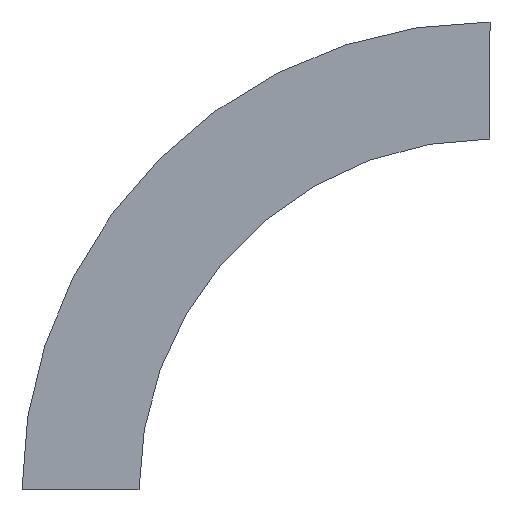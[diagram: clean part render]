
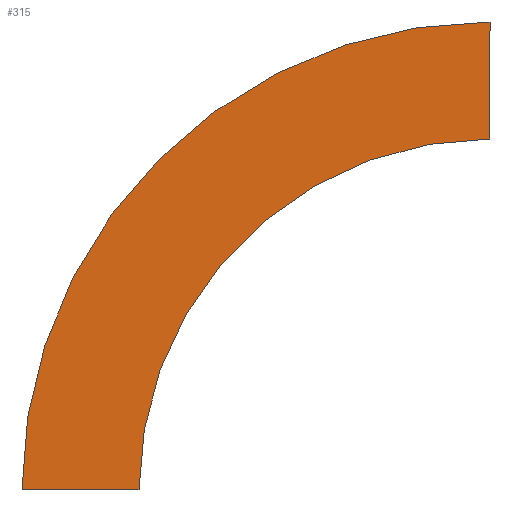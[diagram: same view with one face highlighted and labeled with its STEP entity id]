
A CAD part, left-side view. The second image highlights one B-rep face of the part: STEP entity #315.
In plain terms, the highlighted planar face has unit normal (-1, 0, 0) as drawn and (1, 0, 0) by its records, which use the part's own axes.
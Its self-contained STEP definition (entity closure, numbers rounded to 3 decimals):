
#14 = DIRECTION ( 'NONE',  ( 0., 0., -1. ) ) ;
#18 = PLANE ( 'NONE',  #49 ) ;
#34 = DIRECTION ( 'NONE',  ( 0., 0., 1. ) ) ;
#40 = CARTESIAN_POINT ( 'NONE',  ( 0., -300., 300. ) ) ;
#49 = AXIS2_PLACEMENT_3D ( 'NONE', #555, #68, #14 ) ;
#52 = DIRECTION ( 'NONE',  ( 0., 1., 0. ) ) ;
#56 = VERTEX_POINT ( 'NONE', #563 ) ;
#61 = ORIENTED_EDGE ( 'NONE', *, *, #184, .T. ) ;
#67 = ORIENTED_EDGE ( 'NONE', *, *, #392, .F. ) ;
#68 = DIRECTION ( 'NONE',  ( 1., 0., 0. ) ) ;
#71 = LINE ( 'NONE', #349, #128 ) ;
#127 = VECTOR ( 'NONE', #34, 1000. ) ;
#128 = VECTOR ( 'NONE', #345, 1000. ) ;
#133 = CIRCLE ( 'NONE', #215, 300. ) ;
#154 = EDGE_CURVE ( 'NONE', #185, #554, #133, .T. ) ;
#163 = CARTESIAN_POINT ( 'NONE',  ( 0., 100., 0. ) ) ;
#184 = EDGE_CURVE ( 'NONE', #580, #56, #573, .T. ) ;
#185 = VERTEX_POINT ( 'NONE', #217 ) ;
#215 = AXIS2_PLACEMENT_3D ( 'NONE', #442, #224, #397 ) ;
#217 = CARTESIAN_POINT ( 'NONE',  ( 0., 0., 0. ) ) ;
#224 = DIRECTION ( 'NONE',  ( 1., 0., 0. ) ) ;
#237 = FACE_OUTER_BOUND ( 'NONE', #548, .T. ) ;
#276 = ORIENTED_EDGE ( 'NONE', *, *, #552, .T. ) ;
#302 = DIRECTION ( 'NONE',  ( 1., 0., 0. ) ) ;
#304 = CARTESIAN_POINT ( 'NONE',  ( 0., -300., 300. ) ) ;
#305 = ORIENTED_EDGE ( 'NONE', *, *, #154, .F. ) ;
#309 = CARTESIAN_POINT ( 'NONE',  ( 0., -300., 0. ) ) ;
#315 = ADVANCED_FACE ( 'NONE', ( #237 ), #18, .T. ) ;
#345 = DIRECTION ( 'NONE',  ( 0., 1., 0. ) ) ;
#349 = CARTESIAN_POINT ( 'NONE',  ( 0., 0., 0. ) ) ;
#392 = EDGE_CURVE ( 'NONE', #554, #56, #530, .T. ) ;
#397 = DIRECTION ( 'NONE',  ( 0., 1., 0. ) ) ;
#442 = CARTESIAN_POINT ( 'NONE',  ( 0., -300., 0. ) ) ;
#527 = AXIS2_PLACEMENT_3D ( 'NONE', #309, #302, #52 ) ;
#530 = LINE ( 'NONE', #40, #127 ) ;
#548 = EDGE_LOOP ( 'NONE', ( #61, #67, #305, #276 ) ) ;
#552 = EDGE_CURVE ( 'NONE', #185, #580, #71, .T. ) ;
#554 = VERTEX_POINT ( 'NONE', #304 ) ;
#555 = CARTESIAN_POINT ( 'NONE',  ( 0., 0., 0. ) ) ;
#563 = CARTESIAN_POINT ( 'NONE',  ( 0., -300., 400. ) ) ;
#573 = CIRCLE ( 'NONE', #527, 400. ) ;
#580 = VERTEX_POINT ( 'NONE', #163 ) ;
